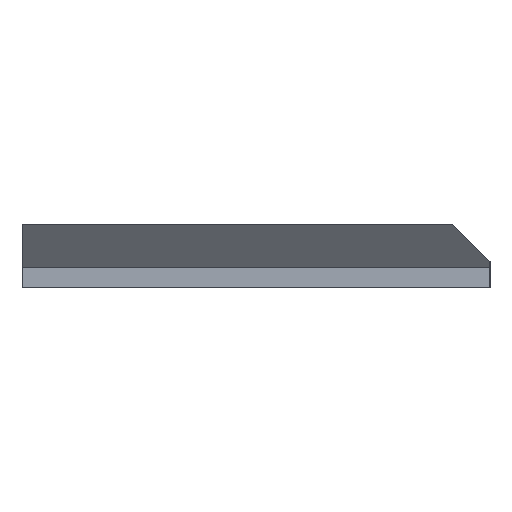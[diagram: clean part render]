
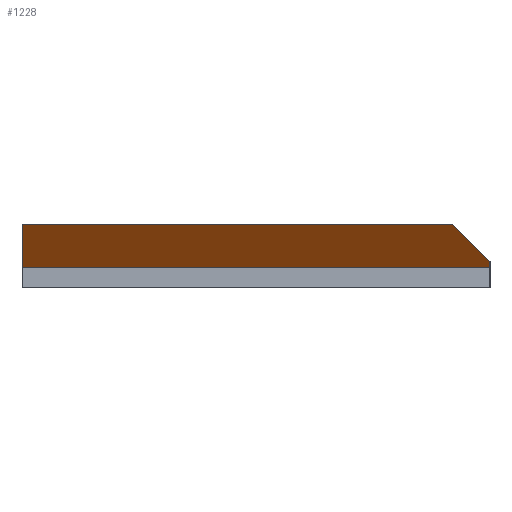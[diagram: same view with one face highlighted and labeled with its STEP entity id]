
A CAD part, left-side view. The second image highlights one B-rep face of the part: STEP entity #1228.
In plain terms, the highlighted planar face has unit normal (-0.781, 0, -0.625).
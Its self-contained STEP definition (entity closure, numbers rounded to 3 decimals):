
#44 = PLANE('',#45);
#45 = AXIS2_PLACEMENT_3D('',#46,#47,#48);
#46 = CARTESIAN_POINT('',(0.,-5.,1.886));
#47 = DIRECTION('',(0.,-1.,0.));
#48 = DIRECTION('',(1.,0.,0.));
#72 = PLANE('',#73);
#73 = AXIS2_PLACEMENT_3D('',#74,#75,#76);
#74 = CARTESIAN_POINT('',(-30.,-5.,1.15));
#75 = DIRECTION('',(1.,0.,0.));
#76 = DIRECTION('',(0.,0.,-1.));
#100 = PLANE('',#101);
#101 = AXIS2_PLACEMENT_3D('',#102,#103,#104);
#102 = CARTESIAN_POINT('',(-40.,-31.7,1.5));
#103 = DIRECTION('',(0.,1.,0.));
#104 = DIRECTION('',(0.,0.,-1.));
#194 = VERTEX_POINT('',#195);
#195 = CARTESIAN_POINT('',(-32.,-5.,3.65));
#209 = PLANE('',#210);
#210 = AXIS2_PLACEMENT_3D('',#211,#212,#213);
#211 = CARTESIAN_POINT('',(32.,-5.,3.65));
#212 = DIRECTION('',(0.,0.,-1.));
#213 = DIRECTION('',(-1.,0.,0.));
#221 = EDGE_CURVE('',#194,#222,#224,.T.);
#222 = VERTEX_POINT('',#223);
#223 = CARTESIAN_POINT('',(-30.,-5.,1.15));
#224 = SURFACE_CURVE('',#225,(#229,#236),.PCURVE_S1.);
#225 = LINE('',#226,#227);
#226 = CARTESIAN_POINT('',(-32.,-5.,3.65));
#227 = VECTOR('',#228,1.);
#228 = DIRECTION('',(0.625,0.,-0.781)
  );
#229 = PCURVE('',#44,#230);
#230 = DEFINITIONAL_REPRESENTATION('',(#231),#235);
#231 = LINE('',#232,#233);
#232 = CARTESIAN_POINT('',(-32.,1.764));
#233 = VECTOR('',#234,1.);
#234 = DIRECTION('',(0.625,-0.781));
#235 = ( GEOMETRIC_REPRESENTATION_CONTEXT(2) 
PARAMETRIC_REPRESENTATION_CONTEXT() REPRESENTATION_CONTEXT('2D SPACE',''
  ) );
#236 = PCURVE('',#237,#242);
#237 = PLANE('',#238);
#238 = AXIS2_PLACEMENT_3D('',#239,#240,#241);
#239 = CARTESIAN_POINT('',(-32.,-5.,3.65));
#240 = DIRECTION('',(0.781,0.,0.625));
#241 = DIRECTION('',(0.625,0.,-0.781)
  );
#242 = DEFINITIONAL_REPRESENTATION('',(#243),#247);
#243 = LINE('',#244,#245);
#244 = CARTESIAN_POINT('',(0.,0.));
#245 = VECTOR('',#246,1.);
#246 = DIRECTION('',(1.,0.));
#247 = ( GEOMETRIC_REPRESENTATION_CONTEXT(2) 
PARAMETRIC_REPRESENTATION_CONTEXT() REPRESENTATION_CONTEXT('2D SPACE',''
  ) );
#322 = EDGE_CURVE('',#323,#325,#327,.T.);
#323 = VERTEX_POINT('',#324);
#324 = CARTESIAN_POINT('',(-30.,-31.7,1.15));
#325 = VERTEX_POINT('',#326);
#326 = CARTESIAN_POINT('',(-30.28,-31.7,1.5));
#327 = SURFACE_CURVE('',#328,(#332,#339),.PCURVE_S1.);
#328 = LINE('',#329,#330);
#329 = CARTESIAN_POINT('',(-33.037,-31.7,4.946));
#330 = VECTOR('',#331,1.);
#331 = DIRECTION('',(-0.625,0.,0.781)
  );
#332 = PCURVE('',#100,#333);
#333 = DEFINITIONAL_REPRESENTATION('',(#334),#338);
#334 = LINE('',#335,#336);
#335 = CARTESIAN_POINT('',(-3.446,-6.963));
#336 = VECTOR('',#337,1.);
#337 = DIRECTION('',(-0.781,0.625));
#338 = ( GEOMETRIC_REPRESENTATION_CONTEXT(2) 
PARAMETRIC_REPRESENTATION_CONTEXT() REPRESENTATION_CONTEXT('2D SPACE',''
  ) );
#339 = PCURVE('',#237,#340);
#340 = DEFINITIONAL_REPRESENTATION('',(#341),#345);
#341 = LINE('',#342,#343);
#342 = CARTESIAN_POINT('',(-1.659,-26.7));
#343 = VECTOR('',#344,1.);
#344 = DIRECTION('',(-1.,0.));
#345 = ( GEOMETRIC_REPRESENTATION_CONTEXT(2) 
PARAMETRIC_REPRESENTATION_CONTEXT() REPRESENTATION_CONTEXT('2D SPACE',''
  ) );
#363 = PLANE('',#364);
#364 = AXIS2_PLACEMENT_3D('',#365,#366,#367);
#365 = CARTESIAN_POINT('',(-40.,-23.7,9.5));
#366 = DIRECTION('',(0.,0.707,-0.707));
#367 = DIRECTION('',(0.,-0.707,-0.707));
#423 = EDGE_CURVE('',#222,#323,#424,.T.);
#424 = SURFACE_CURVE('',#425,(#429,#436),.PCURVE_S1.);
#425 = LINE('',#426,#427);
#426 = CARTESIAN_POINT('',(-30.,-5.,1.15));
#427 = VECTOR('',#428,1.);
#428 = DIRECTION('',(0.,-1.,0.));
#429 = PCURVE('',#72,#430);
#430 = DEFINITIONAL_REPRESENTATION('',(#431),#435);
#431 = LINE('',#432,#433);
#432 = CARTESIAN_POINT('',(0.,0.));
#433 = VECTOR('',#434,1.);
#434 = DIRECTION('',(0.,-1.));
#435 = ( GEOMETRIC_REPRESENTATION_CONTEXT(2) 
PARAMETRIC_REPRESENTATION_CONTEXT() REPRESENTATION_CONTEXT('2D SPACE',''
  ) );
#436 = PCURVE('',#237,#437);
#437 = DEFINITIONAL_REPRESENTATION('',(#438),#442);
#438 = LINE('',#439,#440);
#439 = CARTESIAN_POINT('',(3.202,0.));
#440 = VECTOR('',#441,1.);
#441 = DIRECTION('',(0.,-1.));
#442 = ( GEOMETRIC_REPRESENTATION_CONTEXT(2) 
PARAMETRIC_REPRESENTATION_CONTEXT() REPRESENTATION_CONTEXT('2D SPACE',''
  ) );
#502 = VERTEX_POINT('',#503);
#503 = CARTESIAN_POINT('',(-32.,-29.55,3.65));
#524 = EDGE_CURVE('',#194,#502,#525,.T.);
#525 = SURFACE_CURVE('',#526,(#530,#537),.PCURVE_S1.);
#526 = LINE('',#527,#528);
#527 = CARTESIAN_POINT('',(-32.,-5.,3.65));
#528 = VECTOR('',#529,1.);
#529 = DIRECTION('',(0.,-1.,0.));
#530 = PCURVE('',#209,#531);
#531 = DEFINITIONAL_REPRESENTATION('',(#532),#536);
#532 = LINE('',#533,#534);
#533 = CARTESIAN_POINT('',(64.,0.));
#534 = VECTOR('',#535,1.);
#535 = DIRECTION('',(0.,-1.));
#536 = ( GEOMETRIC_REPRESENTATION_CONTEXT(2) 
PARAMETRIC_REPRESENTATION_CONTEXT() REPRESENTATION_CONTEXT('2D SPACE',''
  ) );
#537 = PCURVE('',#237,#538);
#538 = DEFINITIONAL_REPRESENTATION('',(#539),#543);
#539 = LINE('',#540,#541);
#540 = CARTESIAN_POINT('',(0.,0.));
#541 = VECTOR('',#542,1.);
#542 = DIRECTION('',(0.,-1.));
#543 = ( GEOMETRIC_REPRESENTATION_CONTEXT(2) 
PARAMETRIC_REPRESENTATION_CONTEXT() REPRESENTATION_CONTEXT('2D SPACE',''
  ) );
#1228 = ADVANCED_FACE('',(#1229),#237,.F.);
#1229 = FACE_BOUND('',#1230,.F.);
#1230 = EDGE_LOOP('',(#1231,#1232,#1233,#1254,#1255));
#1231 = ORIENTED_EDGE('',*,*,#221,.F.);
#1232 = ORIENTED_EDGE('',*,*,#524,.T.);
#1233 = ORIENTED_EDGE('',*,*,#1234,.F.);
#1234 = EDGE_CURVE('',#325,#502,#1235,.T.);
#1235 = SURFACE_CURVE('',#1236,(#1240,#1247),.PCURVE_S1.);
#1236 = LINE('',#1237,#1238);
#1237 = CARTESIAN_POINT('',(-38.462,-21.472,
    11.728));
#1238 = VECTOR('',#1239,1.);
#1239 = DIRECTION('',(-0.492,0.615,0.615));
#1240 = PCURVE('',#237,#1241);
#1241 = DEFINITIONAL_REPRESENTATION('',(#1242),#1246);
#1242 = LINE('',#1243,#1244);
#1243 = CARTESIAN_POINT('',(-10.344,-16.472));
#1244 = VECTOR('',#1245,1.);
#1245 = DIRECTION('',(-0.788,0.615));
#1246 = ( GEOMETRIC_REPRESENTATION_CONTEXT(2) 
PARAMETRIC_REPRESENTATION_CONTEXT() REPRESENTATION_CONTEXT('2D SPACE',''
  ) );
#1247 = PCURVE('',#363,#1248);
#1248 = DEFINITIONAL_REPRESENTATION('',(#1249),#1253);
#1249 = LINE('',#1250,#1251);
#1250 = CARTESIAN_POINT('',(-3.15,-1.538));
#1251 = VECTOR('',#1252,1.);
#1252 = DIRECTION('',(-0.87,0.492));
#1253 = ( GEOMETRIC_REPRESENTATION_CONTEXT(2) 
PARAMETRIC_REPRESENTATION_CONTEXT() REPRESENTATION_CONTEXT('2D SPACE',''
  ) );
#1254 = ORIENTED_EDGE('',*,*,#322,.F.);
#1255 = ORIENTED_EDGE('',*,*,#423,.F.);
